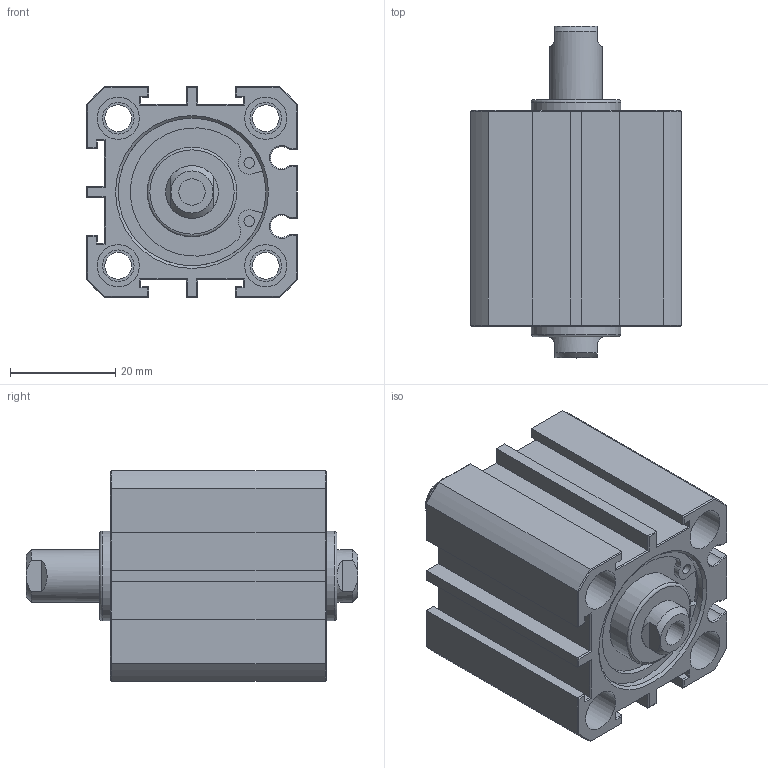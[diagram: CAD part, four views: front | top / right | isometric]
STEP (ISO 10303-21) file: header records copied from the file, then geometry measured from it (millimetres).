
FILE_DESCRIPTION(/* description */ (''),/* implementation_level */ '2;1');
FILE_NAME(/* name */ 'AJC-SWM25X10N',/* time_stamp */ '2019-07-19T10:24:44+08:00',/* author */ ('JEFF HUANG'),/* organization */ ('TAIWAN AMAC CLAMP INDUSTRIAL CO., LTD.'),/* preprocessor_version */ 'ST-DEVELOPER v16.7',/* originating_system */ 'DEX',/* authorisation */ $);
FILE_SCHEMA (('AUTOMOTIVE_DESIGN {1 0 10303 214 3 1 1}'));
Length unit declared in the file: millimetre
Products named in the file (1): AJC-SWM25X10N
Bounding box: 40 x 63 x 40 mm (x, y, z)
Volume: 51421.3 mm3; surface area: 17250.7 mm2
Topology: 1 solids, 1 shells, 259 faces, 565 edges, 338 vertices
Faces by surface type: plane 186, cylinder 53, cone 18, torus 2
Full cylindrical faces by diameter (mm): 2.004 x4, 5 x4, 5.1 x4, 6 x8, 8 x8, 10 x1, 17 x2, 28 x2
Entity records: 8563 total; most frequent: CARTESIAN_POINT 1214, DIRECTION 1146, ORIENTED_EDGE 1046, EDGE_CURVE 523, AXIS2_PLACEMENT_3D 395, LINE 356, VECTOR 356, EDGE_LOOP 334
